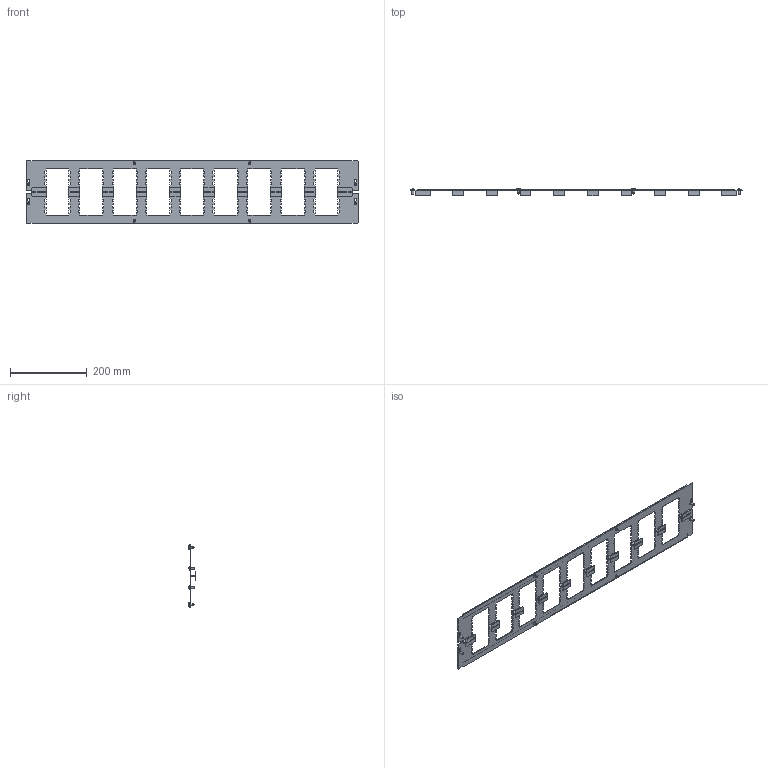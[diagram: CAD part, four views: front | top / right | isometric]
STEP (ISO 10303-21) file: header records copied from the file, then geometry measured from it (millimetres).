
FILE_DESCRIPTION(('Open CASCADE Model'),'2;1');
FILE_NAME('Open CASCADE Shape Model','2025-02-21T14:48:45',('Author'),( 'Open CASCADE'),'Open CASCADE STEP processor 7.8','Open CASCADE 7.8' ,'Unknown');
FILE_SCHEMA(('AUTOMOTIVE_DESIGN { 1 0 10303 214 1 1 1 1 }'));
Length unit declared in the file: millimetre
Products named in the file (4): Compound1; Solid1; Solid2; Solid3
Assembly tree (10 placements, depth 2):
  Compound1
    Solid1  x2
    Solid2  x4
    Solid3  x4
Bounding box: 864 x 19.31 x 165 mm (x, y, z)
Volume: 163849.7 mm3; surface area: 229107.3 mm2
Topology: 10 solids, 10 shells, 1128 faces, 3232 edges, 2116 vertices
Faces by surface type: plane 1036, cylinder 32, cone 20, sphere 16, torus 16, bspline 8
Full cylindrical faces by diameter (mm): 4.8 x4, 5 x4, 6 x4, 7 x4, 9.5 x8
Entity records: 17944 total; most frequent: CARTESIAN_POINT 3890, ORIENTED_EDGE 3074, DIRECTION 2622, EDGE_CURVE 1537, LINE 1452, VECTOR 1452, VERTEX_POINT 1019, AXIS2_PLACEMENT_3D 585
